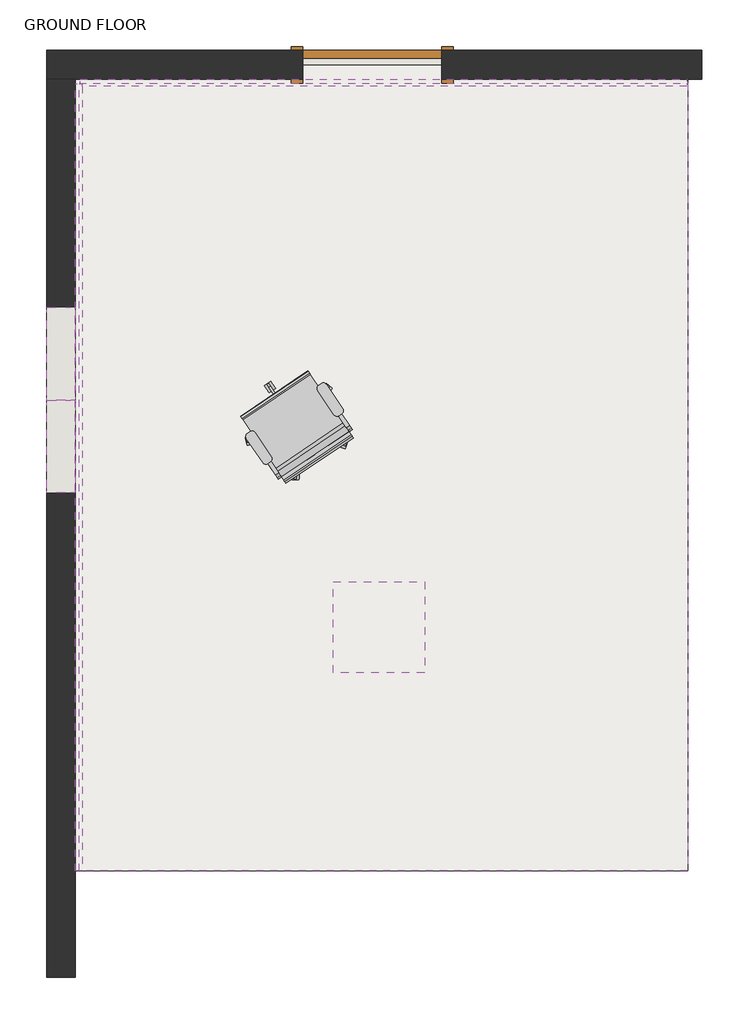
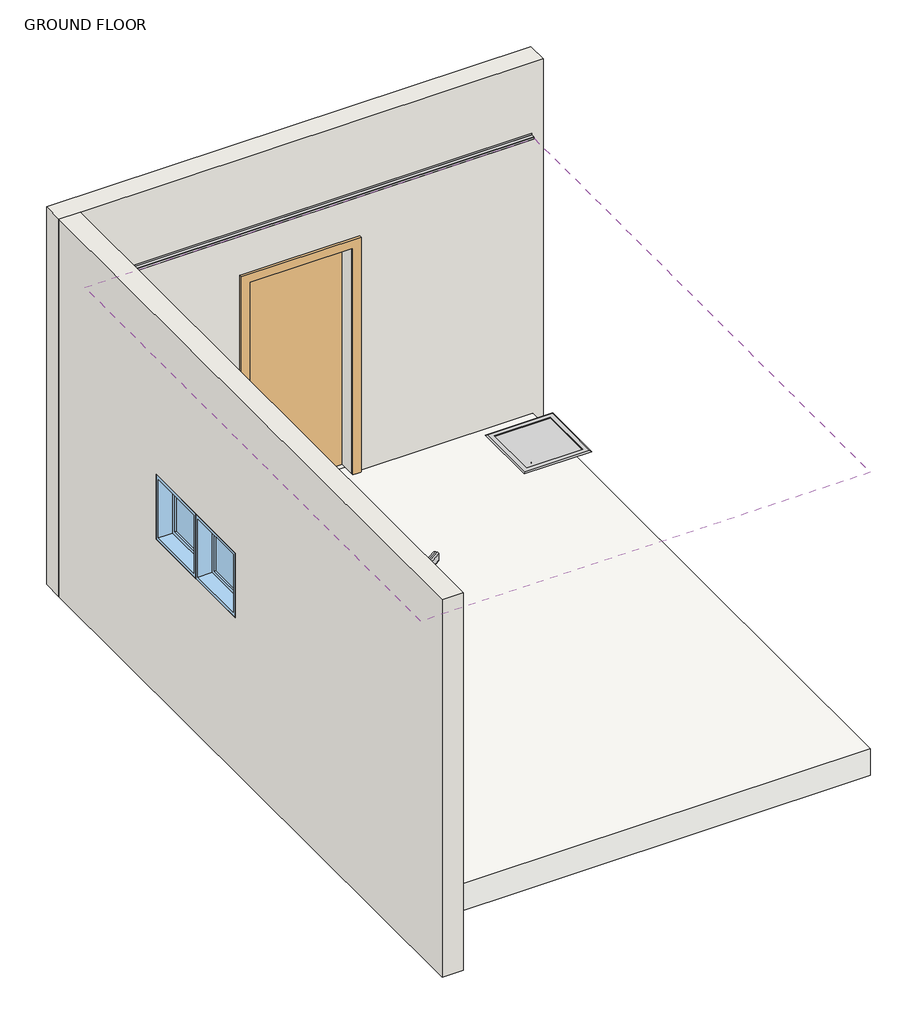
# One storey, incomplete: 3 proxies, 2 walls, 2 windows, 1 covering, 1 door, 1 furniture element, 1 slab.
"""IFC4 building model written with IfcOpenShell, lengths in millimetres."""

from ifc_helpers import new_model, si_unit, point, frame, frame_2d, origin, place, context, project, spatial, polyline, circle_curve, trimmed, segment, composite_curve, outline, extrude, faceted_brep, transform, mapped, element, save
from components import m_single_flush_0915_x_2134mm_f5238887, chair_task_arms_chair_task_arms_3b363349, m_fixed_0610_x_0610mm_09852ef8

model = new_model("IFC4")

# Units and contexts
model_context = context("Model", 3, world=origin())
ifc_project = project(units=[si_unit("LENGTHUNIT", "METRE", prefix="MILLI")], contexts=[model_context])

# Site, building, storey
site = spatial("IfcSite", under=ifc_project)
building = spatial("IfcBuilding", under=site)
storey = spatial("IfcBuildingStorey", under=building, Name="GROUND FLOOR", Elevation=0.0)

# Proxies
placement = place(None, origin())
element("IfcBuildingElementProxy", 1, Name="Flushline Outer Frame : Flushline Outer Frame", ObjectType="Flushline Outer Frame : Flushline Outer Frame", at=placement, inside=storey, context=model_context, shape_type="SolidModel", body=[
    faceted_brep([(129682.6212716, 2869.9489557, 2611.475), (129682.6212716, 2359.2489557, 2611.475), (130193.3212716, 2359.2489557, 2611.475), (130193.3212716, 2869.9489557, 2611.475), (129688.9712716, 2863.5989557, 2611.475), (130186.9712716, 2863.5989557, 2611.475), (130186.9712716, 2365.5989557, 2611.475), (129688.9712716, 2365.5989557, 2611.475), (129682.6212716, 2869.9489557, 2600.0), (130193.3212716, 2869.9489557, 2600.0), (130193.3212716, 2359.2489557, 2600.0), (129682.6212716, 2359.2489557, 2600.0), (129688.9712716, 2863.5989557, 2600.0), (129688.9712716, 2365.5989557, 2600.0), (130186.9712716, 2365.5989557, 2600.0), (130186.9712716, 2863.5989557, 2600.0), (129682.6212716, 2869.9489557, 2611.0), (129682.6212716, 2359.2489557, 2611.0), (130193.3212716, 2359.2489557, 2611.0), (130193.3212716, 2869.9489557, 2611.0)], [[[0, 1, 2, 3], [4, 5, 6, 7]], [[8, 9, 10, 11], [12, 13, 14, 15]], [[5, 4, 12, 15]], [[6, 5, 15, 14]], [[7, 6, 14, 13]], [[4, 7, 13, 12]], [[1, 0, 16, 8, 11, 17]], [[2, 1, 17, 11, 10, 18]], [[3, 2, 18, 10, 9, 19]], [[0, 3, 19, 9, 8, 16]]]),
    extrude(outline(polyline([(129688.9712716, 2863.5989557), (130186.9712716, 2863.5989557), (130186.9712716, 2365.5989557), (129688.9712716, 2365.5989557), (129688.9712716, 2863.5989557)])), frame((0.0, 0.0, 2600.0), z_axis=(0.0, 0.0, 1.0), x_axis=(1.0, 0.0, 0.0)), (0.0, 0.0, 1.0), 11.475),
    faceted_brep([(129688.9712716, 2863.5989557, 2621.0), (129688.9712716, 2863.5989557, 2611.475), (130186.9712716, 2863.5989557, 2611.475), (130186.9712716, 2863.5989557, 2621.0), (130186.9712716, 2365.5989557, 2611.475), (130186.9712716, 2365.5989557, 2621.0), (129688.9712716, 2365.5989557, 2611.475), (129688.9712716, 2365.5989557, 2621.0), (130237.7712716, 2914.3989557, 2611.475), (130237.7712716, 2314.7989557, 2611.475), (129638.1712716, 2314.7989557, 2611.475), (129638.1712716, 2914.3989557, 2611.475), (129650.8712716, 2901.6989557, 2621.0), (129650.8712716, 2327.4989557, 2621.0), (130225.0712716, 2327.4989557, 2621.0), (130225.0712716, 2901.6989557, 2621.0)], [[[0, 1, 2, 3]], [[3, 2, 4, 5]], [[5, 4, 6, 7]], [[8, 9, 10, 11], [1, 6, 4, 2]], [[12, 13, 14, 15], [3, 5, 7, 0]], [[7, 6, 1, 0]], [[11, 12, 15, 8]], [[8, 15, 14, 9]], [[9, 14, 13, 10]], [[10, 13, 12, 11]]]),
    extrude(outline(composite_curve([segment(trimmed(circle_curve(frame_2d((129778.9712716, 2431.9489557)), 10.0), [point((129778.9712716, 2421.9489557))], [point((129778.9712716, 2441.9489557))], False, "CARTESIAN"), True, "CONTINUOUS"), segment(trimmed(circle_curve(frame_2d((129778.9712716, 2431.9489557)), 10.0), [point((129778.9712716, 2441.9489557))], [point((129778.9712716, 2421.9489557))], False, "CARTESIAN"), True, "CONTINUOUS")], self_intersect=False)), frame((0.0, 0.0, 2593.65), z_axis=(0.0, 0.0, 1.0), x_axis=(1.0, 0.0, 0.0)), (0.0, 0.0, 1.0), 6.35),
    extrude(outline(composite_curve([segment(trimmed(circle_curve(frame_2d((130096.9712716, 2431.9489557)), 10.0), [point((130096.9712716, 2421.9489557))], [point((130096.9712716, 2441.9489557))], False, "CARTESIAN"), True, "CONTINUOUS"), segment(trimmed(circle_curve(frame_2d((130096.9712716, 2431.9489557)), 10.0), [point((130096.9712716, 2441.9489557))], [point((130096.9712716, 2421.9489557))], False, "CARTESIAN"), True, "CONTINUOUS")], self_intersect=False)), frame((0.0, 0.0, 2593.65), z_axis=(0.0, 0.0, 1.0), x_axis=(1.0, 0.0, 0.0)), (0.0, 0.0, 1.0), 6.35),
])
element("IfcBuildingElementProxy", 2, Name="TR02 : Pelican Systems Plaster Trim 25 x 20", ObjectType="TR02 : Pelican Systems Plaster Trim 25 x 20", at=placement, inside=storey, context=model_context, shape_type="Brep", body=[
    faceted_brep([(131960.7345529, 6217.9193804, 2635.0), (131960.7345529, 6216.9193804, 2635.0), (131960.7345529, 6216.9193804, 2620.0), (131960.7345529, 6191.9193804, 2620.0), (131960.7345529, 6191.9193804, 2611.0), (131960.7345529, 6171.9193804, 2611.0), (131960.7345529, 6171.9193804, 2610.0), (131960.7345529, 6191.9193804, 2610.0), (131960.7345529, 6191.9193804, 2599.0), (131960.7345529, 6192.9193804, 2599.0), (131960.7345529, 6192.9193804, 2619.0), (131960.7345529, 6217.9193804, 2619.0), (127972.7345529, 6217.9193804, 2635.0), (127972.7345529, 6217.9193804, 2619.0), (127972.7345529, 6192.9193804, 2619.0), (127972.7345529, 6192.9193804, 2599.0), (127972.7345529, 6191.9193804, 2599.0), (127972.7345529, 6191.9193804, 2610.0), (127972.7345529, 6187.9193804, 2610.0), (127972.7345529, 6187.9193804, 2611.0), (127972.7345529, 6191.9193804, 2611.0), (127972.7345529, 6191.9193804, 2620.0), (127972.7345529, 6216.9193804, 2620.0), (127972.7345529, 6216.9193804, 2635.0), (127988.7345529, 6171.9193804, 2610.0), (127988.7345529, 6187.9193804, 2610.0), (127988.7345529, 6171.9193804, 2611.0), (127988.7345529, 6187.9193804, 2611.0)], [[[0, 1, 2, 3, 4, 5, 6, 7, 8, 9, 10, 11]], [[12, 13, 14, 15, 16, 17, 18, 19, 20, 21, 22, 23]], [[0, 11, 13, 12]], [[11, 10, 14, 13]], [[10, 9, 15, 14]], [[9, 8, 16, 15]], [[4, 3, 21, 20]], [[3, 2, 22, 21]], [[2, 1, 23, 22]], [[1, 0, 12, 23]], [[8, 7, 17, 16]], [[7, 6, 24, 25, 18, 17]], [[6, 5, 26, 24]], [[5, 4, 20, 19, 27, 26]], [[25, 27, 19, 18]], [[27, 25, 24, 26]]]),
])
element("IfcBuildingElementProxy", 3, Name="TR02 : Pelican Systems Plaster Trim 25 x 20", ObjectType="TR02 : Pelican Systems Plaster Trim 25 x 20", at=placement, inside=storey, context=model_context, shape_type="Brep", body=[
    faceted_brep([(127942.7345529, 6187.9193804, 2635.0), (127943.7345529, 6187.9193804, 2635.0), (127943.7345529, 6187.9193804, 2620.0), (127968.7345529, 6187.9193804, 2620.0), (127968.7345529, 6187.9193804, 2611.0), (127972.7345529, 6187.9193804, 2611.0), (127988.7345529, 6187.9193804, 2611.0), (127988.7345529, 6187.9193804, 2610.0), (127972.7345529, 6187.9193804, 2610.0), (127968.7345529, 6187.9193804, 2610.0), (127968.7345529, 6187.9193804, 2599.0), (127967.7345529, 6187.9193804, 2599.0), (127967.7345529, 6187.9193804, 2619.0), (127942.7345529, 6187.9193804, 2619.0), (127942.7345529, 1012.9193804, 2635.0), (127942.7345529, 1012.9193804, 2619.0), (127967.7345529, 1012.9193804, 2619.0), (127967.7345529, 1012.9193804, 2599.0), (127968.7345529, 1012.9193804, 2599.0), (127968.7345529, 1012.9193804, 2610.0), (127988.7345529, 1012.9193804, 2610.0), (127988.7345529, 1012.9193804, 2611.0), (127968.7345529, 1012.9193804, 2611.0), (127968.7345529, 1012.9193804, 2620.0), (127943.7345529, 1012.9193804, 2620.0), (127943.7345529, 1012.9193804, 2635.0), (127988.7345529, 6171.9193804, 2610.0), (127988.7345529, 6171.9193804, 2611.0)], [[[0, 1, 2, 3, 4, 5, 6, 7, 8, 9, 10, 11, 12, 13]], [[14, 15, 16, 17, 18, 19, 20, 21, 22, 23, 24, 25]], [[13, 15, 14, 0]], [[12, 16, 15, 13]], [[11, 17, 16, 12]], [[10, 18, 17, 11]], [[3, 23, 22, 4]], [[2, 24, 23, 3]], [[1, 25, 24, 2]], [[0, 14, 25, 1]], [[9, 19, 18, 10]], [[7, 26, 20, 19, 9, 8]], [[6, 27, 21, 20, 26, 7]], [[4, 22, 21, 27, 6, 5]]]),
])

# Covering
element("IfcCovering", 4, ObjectType="_C2.3 - 12mm FLUSHPLASTER CEILING (UNDER CONCRETE SOFFIT)", at=placement, inside=storey, context=model_context, shape_type="SweptSolid", body=[
    extrude(outline(polyline([(127967.7345529, 6191.9193804), (131966.7345529, 6191.9193804), (131966.7345529, 1012.9193804), (127967.7345529, 1012.9193804), (127967.7345529, 6191.9193804)]), holes=[polyline([(129682.6212716, 2869.9489557), (129682.6212716, 2359.2489557), (130193.3212716, 2359.2489557), (130193.3212716, 2869.9489557), (129682.6212716, 2869.9489557)])]), frame((0.0, 0.0, 2600.0), z_axis=(0.0, 0.0, 1.0), x_axis=(1.0, 0.0, 0.0)), (0.0, 0.0, 1.0), 11.0),
])

# Door
m_single_flush_0915_x_2134mm_shape = m_single_flush_0915_x_2134mm_f5238887(model_context)
element("IfcDoor", 5, ObjectType="M_Single-Flush : 0915 x 2134mm", at=placement, inside=storey, context=model_context, shape_type="MappedRepresentation", body=[
    mapped(m_single_flush_0915_x_2134mm_shape, transform((129894.7345529, 6312.9193804, 0.0), x_axis=(1.0, 0.0, 0.0), y_axis=(0.0, 1.0, 0.0), z_axis=(0.0, 0.0, 1.0))),
])

# Furniture
chair_task_arms_chair_task_arms_shape = chair_task_arms_chair_task_arms_3b363349(model_context)
element("IfcFurniture", 6, ObjectType="Chair-Task Arms : Chair-Task Arms", at=placement, inside=storey, context=model_context, shape_type="MappedRepresentation", body=[
    mapped(chair_task_arms_chair_task_arms_shape, transform((129292.677586, 3836.7323612, 0.0), x_axis=(0.8290375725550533, 0.5591929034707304, 0.0), y_axis=(-0.5591929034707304, 0.8290375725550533, 0.0), z_axis=(0.0, 0.0, 1.0))),
])

# Slab
element("IfcSlab", 7, ObjectType="Generic Floor - 250mm", at=placement, inside=storey, context=model_context, shape_type="Brep", body=[
    faceted_brep([(127866.7345529, 6312.9193804, -250.0), (131966.7345529, 6312.9193804, -250.0), (131966.7345529, 6217.9193804, -250.0), (131966.7345529, 1012.9193804, -250.0), (127866.7345529, 1012.9193804, -250.0), (127866.7345529, 6217.9193804, -250.0), (127866.7345529, 6312.9193804, 0.0), (127866.7345529, 6217.9193804, 0.0), (127866.7345529, 1012.9193804, 0.0), (131966.7345529, 1012.9193804, 0.0), (131966.7345529, 6217.9193804, 0.0), (131966.7345529, 6312.9193804, 0.0), (130352.2345529, 6312.9193804, 0.0), (129437.2345529, 6312.9193804, 0.0)], [[[0, 1, 2, 3, 4, 5]], [[6, 7, 8, 9, 10, 11, 12, 13]], [[1, 0, 6, 13, 12, 11]], [[3, 2, 1, 11, 10, 9]], [[4, 3, 9, 8]], [[0, 5, 4, 8, 7, 6]]]),
])

# Walls
element("IfcWall", 8, ObjectType="190mm MAXI BLOCK- plastered", at=placement, inside=storey, context=model_context, shape_type="Brep", body=[
    faceted_brep([(132061.7345529, 6217.9193804, -250.0), (132061.7345529, 6217.9193804, 3300.0), (127942.7345529, 6217.9193804, 3300.0), (127752.7345529, 6217.9193804, 3300.0), (127752.7345529, 6217.9193804, -250.0), (127866.7345529, 6217.9193804, -250.0), (127866.7345529, 6217.9193804, 0.0), (129437.2345529, 6217.9193804, 0.0), (129437.2345529, 6217.9193804, 2134.0), (130352.2345529, 6217.9193804, 2134.0), (130352.2345529, 6217.9193804, 0.0), (131966.7345529, 6217.9193804, 0.0), (131966.7345529, 6217.9193804, -250.0), (132061.7345529, 6407.9193804, -250.0), (127752.7345529, 6407.9193804, -250.0), (127752.7345529, 6407.9193804, 3300.0), (132061.7345529, 6407.9193804, 3300.0), (129437.2345529, 6407.9193804, 0.0), (130352.2345529, 6407.9193804, 0.0), (130352.2345529, 6407.9193804, 2134.0), (129437.2345529, 6407.9193804, 2134.0), (131966.7345529, 6312.9193804, -250.0), (127866.7345529, 6312.9193804, -250.0), (129437.2345529, 6312.9193804, 0.0), (130352.2345529, 6312.9193804, 0.0), (127866.7345529, 6312.9193804, 0.0), (131966.7345529, 6312.9193804, 0.0)], [[[0, 1, 2, 3, 4, 5, 6, 7, 8, 9, 10, 11, 12]], [[13, 14, 15, 16], [17, 18, 19, 20]], [[14, 13, 0, 12, 21, 22, 5, 4]], [[1, 0, 13, 16]], [[3, 2, 1, 16, 15]], [[18, 17, 23, 24]], [[19, 18, 24, 10, 9]], [[20, 19, 9, 8]], [[17, 20, 8, 7, 23]], [[25, 23, 7, 6]], [[24, 26, 11, 10]], [[25, 22, 21, 26, 24, 23]], [[22, 25, 6, 5]], [[26, 21, 12, 11]], [[4, 3, 15, 14]]]),
])
element("IfcWall", 9, ObjectType="190mm MAXI BLOCK- plastered", at=placement, inside=storey, context=model_context, shape_type="Brep", body=[
    faceted_brep([(127942.7345529, 312.9193804, -250.0), (127942.7345529, 6217.9193804, -250.0), (127942.7345529, 6217.9193804, 3300.0), (127942.7345529, 312.9193804, 3300.0), (127942.7345529, 3497.9193804, 1810.0), (127942.7345529, 4717.9193804, 1810.0), (127942.7345529, 4717.9193804, 1200.0), (127942.7345529, 3497.9193804, 1200.0), (127752.7345529, 6217.9193804, -250.0), (127752.7345529, 312.9193804, -250.0), (127752.7345529, 312.9193804, 3300.0), (127752.7345529, 6217.9193804, 3300.0), (127752.7345529, 3497.9193804, 1200.0), (127752.7345529, 4717.9193804, 1200.0), (127752.7345529, 4717.9193804, 1810.0), (127752.7345529, 3497.9193804, 1810.0), (127866.7345529, 6217.9193804, -250.0)], [[[0, 1, 2, 3], [4, 5, 6, 7]], [[8, 9, 10, 11], [12, 13, 14, 15]], [[1, 0, 9, 8, 16]], [[3, 2, 11, 10]], [[0, 3, 10, 9]], [[2, 1, 16, 8, 11]], [[14, 13, 6, 5]], [[14, 5, 4, 15]], [[12, 7, 6, 13]], [[15, 4, 7, 12]]]),
])

# Windows
m_fixed_0610_x_0610mm_shape = m_fixed_0610_x_0610mm_09852ef8(model_context)
element("IfcWindow", 10, ObjectType="M_Fixed : 0610 x 0610mm", at=placement, inside=storey, context=model_context, shape_type="MappedRepresentation", body=[
    mapped(m_fixed_0610_x_0610mm_shape, transform((127834.7345529, 4412.9193804, 285.0), x_axis=(0.0, -1.0, 0.0), y_axis=(1.0, 0.0, 0.0), z_axis=(0.0, 0.0, 1.0))),
])
element("IfcWindow", 11, ObjectType="M_Fixed : 0610 x 0610mm", at=placement, inside=storey, context=model_context, shape_type="MappedRepresentation", body=[
    mapped(m_fixed_0610_x_0610mm_shape, transform((127834.7345529, 3802.9193804, 285.0), x_axis=(0.0, -1.0, 0.0), y_axis=(1.0, 0.0, 0.0), z_axis=(0.0, 0.0, 1.0))),
])

save(model, "model.ifc")
